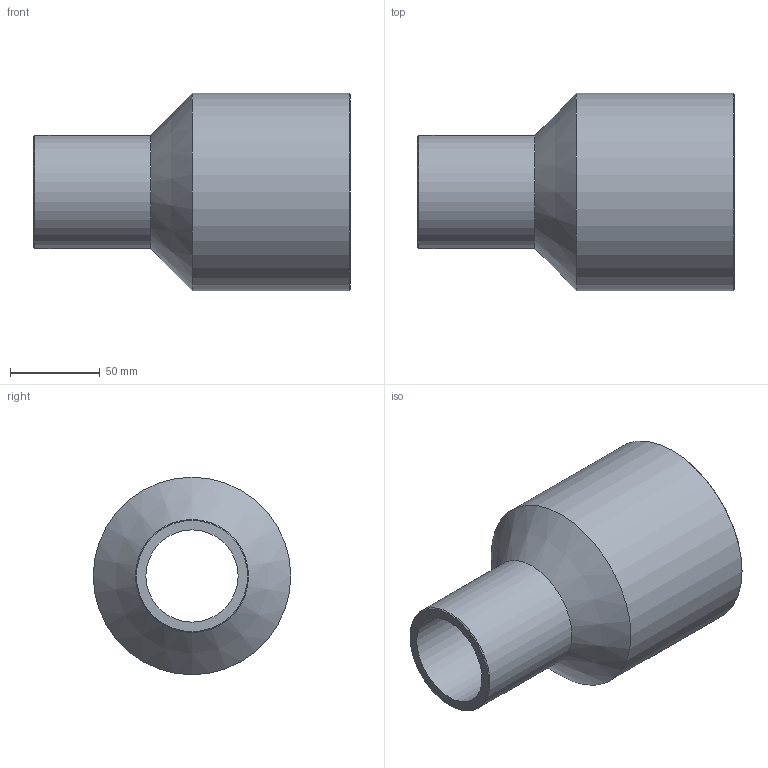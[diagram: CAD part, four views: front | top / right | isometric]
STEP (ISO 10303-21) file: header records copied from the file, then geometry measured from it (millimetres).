
FILE_DESCRIPTION(/* description */ ('Unknown'),/* implementation_level */ '2;1');
FILE_NAME(/* name */ 'RP110063C',/* time_stamp */ '2021-09-17T15:11:21+02:00',/* author */ ('Unknown'),/* organization */ ('Unknown'),/* preprocessor_version */ 'ST-DEVELOPER v16.7',/* originating_system */ 'Solid Edge',/* authorisation */ 'Unknown');
FILE_SCHEMA (('AUTOMOTIVE_DESIGN {1 0 10303 214 3 1 1}'));
Length unit declared in the file: millimetre
Products named in the file (1): RP110063C
Bounding box: 176 x 110 x 110 mm (x, y, z)
Volume: 423604.2 mm3; surface area: 97071.5 mm2
Topology: 1 solids, 1 shells, 10 faces, 19 edges, 11 vertices
Faces by surface type: cylinder 4, cone 4, plane 2
Full cylindrical faces by diameter (mm): 51.4 x1, 63 x1, 90 x1, 110 x1
Entity records: 238 total; most frequent: DIRECTION 42, CARTESIAN_POINT 31, AXIS2_PLACEMENT_3D 21, ORIENTED_EDGE 20, EDGE_LOOP 20, FACE_BOUND 20, EDGE_CURVE 10, VERTEX_POINT 10
